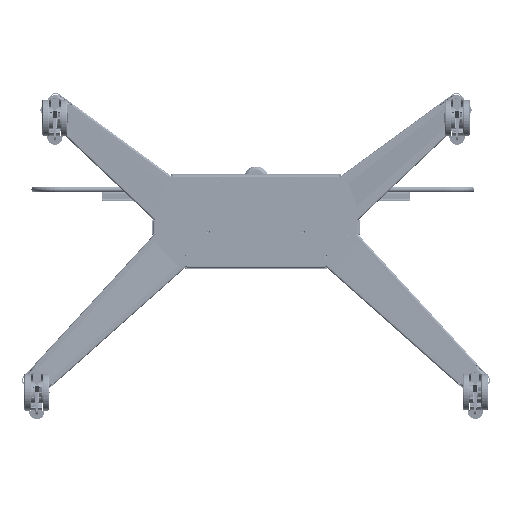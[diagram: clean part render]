
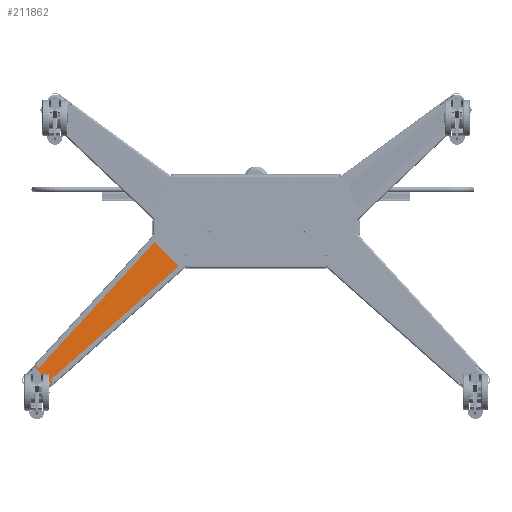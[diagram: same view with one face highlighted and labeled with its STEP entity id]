
A CAD part, left-side view. The second image highlights one B-rep face of the part: STEP entity #211862.
In plain terms, the highlighted planar face has unit normal (-0.999, -0.034, 0.033) as drawn and (0.034, -0.999, 0.033) by its records, which use the part's own axes.
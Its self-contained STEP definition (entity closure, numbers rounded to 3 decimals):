
#209500=CARTESIAN_POINT('',(-273.484,51.496,
-28.513));
#209519=CARTESIAN_POINT('',(-273.396,51.502,
-28.422));
#209520=CARTESIAN_POINT('',(-273.406,51.502,
-28.432));
#209521=CARTESIAN_POINT('',(-273.426,51.5,
-28.452));
#209522=CARTESIAN_POINT('',(-273.457,51.498,
-28.481));
#209523=CARTESIAN_POINT('',(-273.474,51.497,
-28.503));
#209524=CARTESIAN_POINT('',(-273.484,51.496,
-28.513));
#209566=CARTESIAN_POINT('',(-192.032,51.505,
-111.098));
#209588=CARTESIAN_POINT('',(-192.879,51.496,
-110.538));
#209767=DIRECTION('',(0.664,-0.002,-0.748));
#209768=VECTOR('',#209767,0.103);
#209769=CARTESIAN_POINT('',(-589.623,26.187,
-462.741));
#209770=LINE('',#209769,#209768);
#209915=DIRECTION('',(0.701,0.,-0.713));
#209916=VECTOR('',#209915,41.477);
#209917=CARTESIAN_POINT('',(-632.435,25.731,
-432.798));
#209918=LINE('',#209917,#209916);
#209928=DIRECTION('',(-0.712,-0.048,
-0.7));
#209929=VECTOR('',#209928,0.147);
#209930=CARTESIAN_POINT('',(-632.33,25.738,
-432.695));
#209931=LINE('',#209930,#209929);
#209977=DIRECTION('',(0.676,0.048,0.735));
#209978=VECTOR('',#209977,531.126);
#209979=CARTESIAN_POINT('',(-632.632,26.187,
-418.983));
#209980=LINE('',#209979,#209978);
#209981=DIRECTION('',(0.701,0.,-0.713));
#209982=VECTOR('',#209981,75.002);
#209983=CARTESIAN_POINT('',(-273.396,51.502,
-28.422));
#209984=LINE('',#209983,#209982);
#209985=CARTESIAN_POINT('',(-220.827,51.502,
-81.918));
#209986=CARTESIAN_POINT('',(-217.632,51.502,
-85.164));
#209987=CARTESIAN_POINT('',(-211.241,51.503,
-91.655));
#209988=CARTESIAN_POINT('',(-201.637,51.505,
-101.371));
#209989=CARTESIAN_POINT('',(-195.237,51.504,
-107.863));
#209990=CARTESIAN_POINT('',(-192.032,51.505,
-111.098));
#209992=CARTESIAN_POINT('',(-192.032,51.505,
-111.098));
#209993=CARTESIAN_POINT('',(-192.059,51.503,
-111.125));
#209994=CARTESIAN_POINT('',(-192.103,51.503,
-111.138));
#209995=CARTESIAN_POINT('',(-192.166,51.502,
-111.073));
#209996=CARTESIAN_POINT('',(-192.241,51.502,
-111.024));
#209997=CARTESIAN_POINT('',(-192.323,51.501,
-110.964));
#209998=CARTESIAN_POINT('',(-192.414,51.5,
-110.9));
#209999=CARTESIAN_POINT('',(-192.514,51.499,
-110.827));
#210000=CARTESIAN_POINT('',(-192.624,51.498,
-110.744));
#210001=CARTESIAN_POINT('',(-192.745,51.497,
-110.649));
#210002=CARTESIAN_POINT('',(-192.833,51.497,
-110.577));
#210003=CARTESIAN_POINT('',(-192.879,51.496,
-110.538));
#210005=DIRECTION('',(-0.747,-0.048,
-0.663));
#210006=VECTOR('',#210005,531.125);
#210007=CARTESIAN_POINT('',(-192.879,51.496,
-110.538));
#210008=LINE('',#210007,#210006);
#210009=CARTESIAN_POINT('',(-589.623,26.187,
-462.741));
#210010=CARTESIAN_POINT('',(-590.456,26.136,
-463.43));
#210011=CARTESIAN_POINT('',(-592.138,26.042,
-464.516));
#210012=CARTESIAN_POINT('',(-594.536,25.937,
-465.207));
#210013=CARTESIAN_POINT('',(-597.446,25.834,
-465.334));
#210014=CARTESIAN_POINT('',(-600.679,25.755,
-464.379));
#210015=CARTESIAN_POINT('',(-602.413,25.739,
-463.108));
#210016=CARTESIAN_POINT('',(-603.259,25.738,
-462.279));
#210018=DIRECTION('',(-0.712,-0.048,
-0.7));
#210019=VECTOR('',#210018,0.147);
#210020=CARTESIAN_POINT('',(-603.259,25.738,
-462.279));
#210021=LINE('',#210020,#210019);
#210022=CARTESIAN_POINT('',(-632.33,25.738,
-432.695));
#210023=CARTESIAN_POINT('',(-633.081,25.74,
-431.879));
#210024=CARTESIAN_POINT('',(-634.272,25.755,
-430.211));
#210025=CARTESIAN_POINT('',(-635.099,25.811,
-427.698));
#210026=CARTESIAN_POINT('',(-635.286,25.904,
-424.732));
#210027=CARTESIAN_POINT('',(-634.437,26.038,
-421.592));
#210028=CARTESIAN_POINT('',(-633.304,26.134,
-419.886));
#210029=CARTESIAN_POINT('',(-632.554,26.187,
-419.052));
#210612=DIRECTION('',(0.749,0.003,-0.662));
#210613=VECTOR('',#210612,0.104);
#210614=CARTESIAN_POINT('',(-632.632,26.187,
-418.983));
#210615=LINE('',#210614,#210613);
#210697=VERTEX_POINT('',#209500);
#210698=CARTESIAN_POINT('',(-632.632,26.187,
-418.983));
#210699=VERTEX_POINT('',#210698);
#210704=CARTESIAN_POINT('',(-273.397,51.502,
-28.423));
#210705=VERTEX_POINT('',#210704);
#210711=VERTEX_POINT('',#209566);
#210717=VERTEX_POINT('',#209588);
#210760=CARTESIAN_POINT('',(-589.555,26.187,
-462.818));
#210761=VERTEX_POINT('',#210760);
#210762=CARTESIAN_POINT('',(-589.623,26.187,
-462.741));
#210763=VERTEX_POINT('',#210762);
#210782=CARTESIAN_POINT('',(-632.435,25.731,
-432.798));
#210783=VERTEX_POINT('',#210782);
#210784=CARTESIAN_POINT('',(-603.363,25.731,
-462.382));
#210785=VERTEX_POINT('',#210784);
#210788=CARTESIAN_POINT('',(-632.33,25.738,
-432.695));
#210789=VERTEX_POINT('',#210788);
#210790=CARTESIAN_POINT('',(-603.259,25.738,
-462.279));
#210791=VERTEX_POINT('',#210790);
#210792=VERTEX_POINT('',#209985);
#210793=VERTEX_POINT('',#210029);
#211837=CARTESIAN_POINT('',(-285.641,51.503,
-15.928));
#211838=DIRECTION('',(0.034,-0.999,0.033));
#211839=DIRECTION('',(-0.712,-0.048,
-0.7));
#211840=AXIS2_PLACEMENT_3D('',#211837,#211838,#211839);
#211841=PLANE('',#211840);
#211842=ORIENTED_EDGE('',*,*,#211107,.T.);
#211843=ORIENTED_EDGE('',*,*,#211167,.F.);
#211845=ORIENTED_EDGE('',*,*,#211844,.T.);
#211847=ORIENTED_EDGE('',*,*,#211846,.T.);
#211848=ORIENTED_EDGE('',*,*,#211280,.T.);
#211849=ORIENTED_EDGE('',*,*,#211490,.T.);
#211850=ORIENTED_EDGE('',*,*,#211508,.F.);
#211852=ORIENTED_EDGE('',*,*,#211851,.T.);
#211853=ORIENTED_EDGE('',*,*,#211828,.T.);
#211854=ORIENTED_EDGE('',*,*,#211703,.F.);
#211855=ORIENTED_EDGE('',*,*,#211722,.F.);
#211857=ORIENTED_EDGE('',*,*,#211856,.T.);
#211859=ORIENTED_EDGE('',*,*,#211858,.F.);
#211860=EDGE_LOOP('',(#211842,#211843,#211845,#211847,#211848,#211849,#211850,
#211852,#211853,#211854,#211855,#211857,#211859));
#211861=FACE_OUTER_BOUND('',#211860,.F.);
#211862=ADVANCED_FACE('',(#211861),#211841,.T.);
#209525=B_SPLINE_CURVE_WITH_KNOTS('',3,(#209519,#209520,#209521,#209522,#209523,
#209524),.UNSPECIFIED.,.F.,.F.,(4,1,1,4),(0.,0.333,
0.667,1.),.UNSPECIFIED.);
#209991=B_SPLINE_CURVE_WITH_KNOTS('',3,(#209985,#209986,#209987,#209988,#209989,
#209990),.UNSPECIFIED.,.F.,.F.,(4,1,1,4),(0.,0.333,
0.667,1.),.UNSPECIFIED.);
#210004=B_SPLINE_CURVE_WITH_KNOTS('',3,(#209992,#209993,#209994,#209995,#209996,
#209997,#209998,#209999,#210000,#210001,#210002,#210003),.UNSPECIFIED.,.F.,.F.,(
4,1,1,1,1,1,1,1,1,4),(0.,0.111,0.222,
0.333,0.444,0.556,0.667,
0.778,0.889,1.),.UNSPECIFIED.);
#210017=B_SPLINE_CURVE_WITH_KNOTS('',3,(#210009,#210010,#210011,#210012,#210013,
#210014,#210015,#210016),.UNSPECIFIED.,.F.,.F.,(4,1,1,1,1,4),(0.,
0.198,0.399,0.6,0.8,1.),
.UNSPECIFIED.);
#210030=B_SPLINE_CURVE_WITH_KNOTS('',3,(#210022,#210023,#210024,#210025,#210026,
#210027,#210028,#210029),.UNSPECIFIED.,.F.,.F.,(4,1,1,1,1,4),(0.,
0.198,0.399,0.6,0.8,1.),
.UNSPECIFIED.);
#211107=EDGE_CURVE('',#210699,#210697,#209980,.T.);
#211167=EDGE_CURVE('',#210705,#210697,#209525,.T.);
#211280=EDGE_CURVE('',#210711,#210717,#210004,.T.);
#211490=EDGE_CURVE('',#210717,#210761,#210008,.T.);
#211508=EDGE_CURVE('',#210763,#210761,#209770,.T.);
#211703=EDGE_CURVE('',#210783,#210785,#209918,.T.);
#211722=EDGE_CURVE('',#210789,#210783,#209931,.T.);
#211828=EDGE_CURVE('',#210791,#210785,#210021,.T.);
#211844=EDGE_CURVE('',#210705,#210792,#209984,.T.);
#211846=EDGE_CURVE('',#210792,#210711,#209991,.T.);
#211851=EDGE_CURVE('',#210763,#210791,#210017,.T.);
#211856=EDGE_CURVE('',#210789,#210793,#210030,.T.);
#211858=EDGE_CURVE('',#210699,#210793,#210615,.T.);
